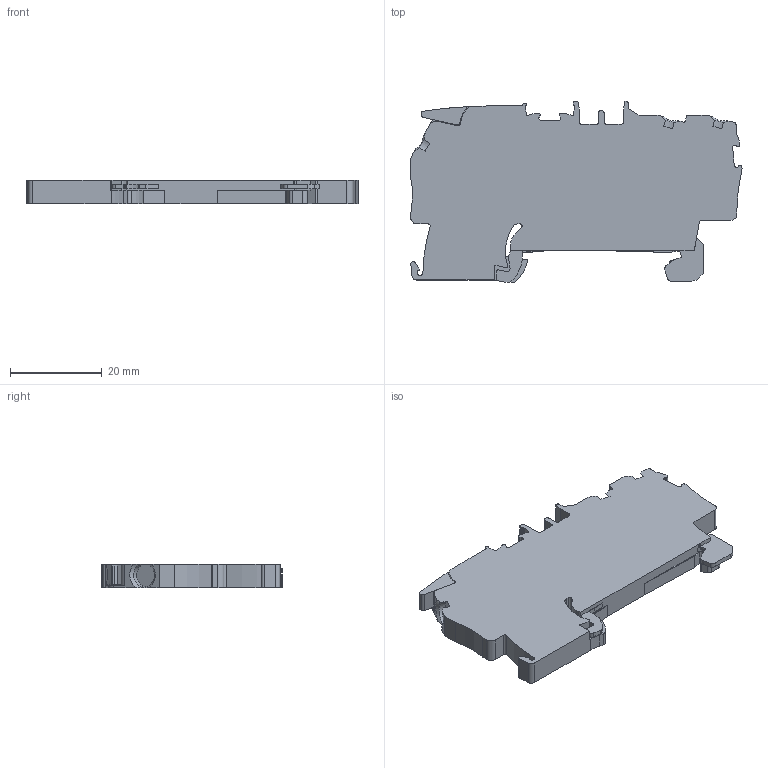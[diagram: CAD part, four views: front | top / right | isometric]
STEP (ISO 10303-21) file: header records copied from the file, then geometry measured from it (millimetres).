
FILE_DESCRIPTION( ( 'STEP AP214' ), ' ' );
FILE_NAME( 'U:/__temp/PartServer_Export/2102-1307.stp', '2018-06-11T10:51:57', ( '' ), ( '' ), ' ', 'PARTsolutions', ' ' );
FILE_SCHEMA( ( 'AUTOMOTIVE_DESIGN { 1 0 10303 214 1 1 1 1 }' ) );
Length unit declared in the file: millimetre
Products named in the file (1): _2102-1307
Bounding box: 72.24 x 39.5 x 5.2 mm (x, y, z)
Volume: 10688.7 mm3; surface area: 6690.3 mm2
Topology: 1 solids, 1 shells, 283 faces, 825 edges, 548 vertices
Faces by surface type: plane 178, cylinder 102, cone 3
Full cylindrical faces by diameter (mm): 2.2 x1
Entity records: 11709 total; most frequent: CARTESIAN_POINT 1736, ORIENTED_EDGE 1648, DIRECTION 1605, EDGE_CURVE 824, LINE 591, VECTOR 591, VERTEX_POINT 548, AXIS2_PLACEMENT_3D 507
